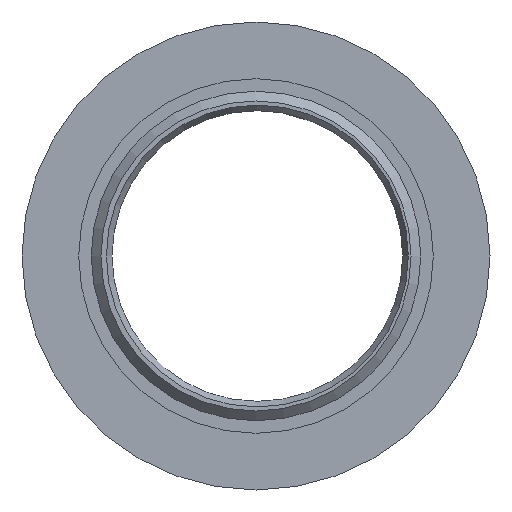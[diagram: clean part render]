
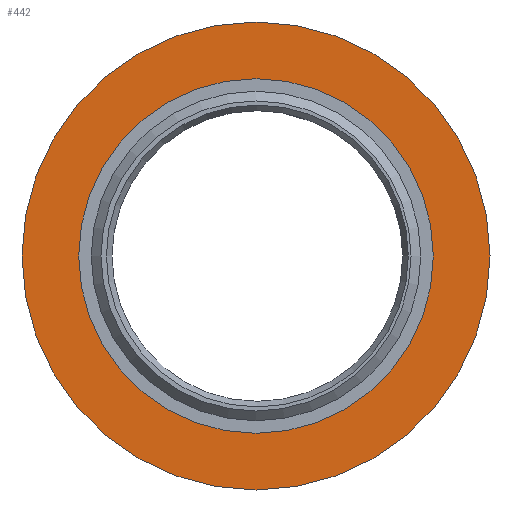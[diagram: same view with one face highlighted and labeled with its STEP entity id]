
A CAD part, left-side view. The second image highlights one B-rep face of the part: STEP entity #442.
In plain terms, the highlighted planar face has unit normal (-1, 0, 0).
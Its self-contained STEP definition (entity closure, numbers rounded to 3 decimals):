
#9 = AXIS2_PLACEMENT_3D ( 'NONE', #1396, #1397, #1398 ) ;
#11 = AXIS2_PLACEMENT_3D ( 'NONE', #1389, #1390, #1391 ) ;
#115 = EDGE_CURVE ( 'NONE', #1251, #1251, #809, .T. ) ;
#117 = EDGE_CURVE ( 'NONE', #888, #888, #813, .T. ) ;
#276 = AXIS2_PLACEMENT_3D ( 'NONE', #1339, #1344, #1345 ) ;
#419 = EDGE_LOOP ( 'NONE', ( #571 ) ) ;
#442 = ADVANCED_FACE ( 'NONE', ( #865, #870 ), #1337, .F. ) ;
#571 = ORIENTED_EDGE ( 'NONE', *, *, #115, .T. ) ;
#580 = ORIENTED_EDGE ( 'NONE', *, *, #117, .F. ) ;
#809 = CIRCLE ( 'NONE', #11, 18.3 ) ;
#813 = CIRCLE ( 'NONE', #9, 24.15 ) ;
#865 = FACE_OUTER_BOUND ( 'NONE', #1149, .T. ) ;
#870 = FACE_BOUND ( 'NONE', #419, .T. ) ;
#888 = VERTEX_POINT ( 'NONE', #1101 ) ;
#1100 = CARTESIAN_POINT ( 'NONE',  ( -9.08, 0.138, -18.3 ) ) ;
#1101 = CARTESIAN_POINT ( 'NONE',  ( -9.08, 0.138, -24.15 ) ) ;
#1149 = EDGE_LOOP ( 'NONE', ( #580 ) ) ;
#1251 = VERTEX_POINT ( 'NONE', #1100 ) ;
#1337 = PLANE ( 'NONE',  #276 ) ;
#1339 = CARTESIAN_POINT ( 'NONE',  ( -9.08, 0.138, 0. ) ) ;
#1344 = DIRECTION ( 'NONE',  ( 1., 0., 0. ) ) ;
#1345 = DIRECTION ( 'NONE',  ( 0., 0., -1. ) ) ;
#1389 = CARTESIAN_POINT ( 'NONE',  ( -9.08, 0.138, 0. ) ) ;
#1390 = DIRECTION ( 'NONE',  ( 1., 0., 0. ) ) ;
#1391 = DIRECTION ( 'NONE',  ( 0., 0., -1. ) ) ;
#1396 = CARTESIAN_POINT ( 'NONE',  ( -9.08, 0.138, 0. ) ) ;
#1397 = DIRECTION ( 'NONE',  ( 1., 0., 0. ) ) ;
#1398 = DIRECTION ( 'NONE',  ( 0., 0., -1. ) ) ;
